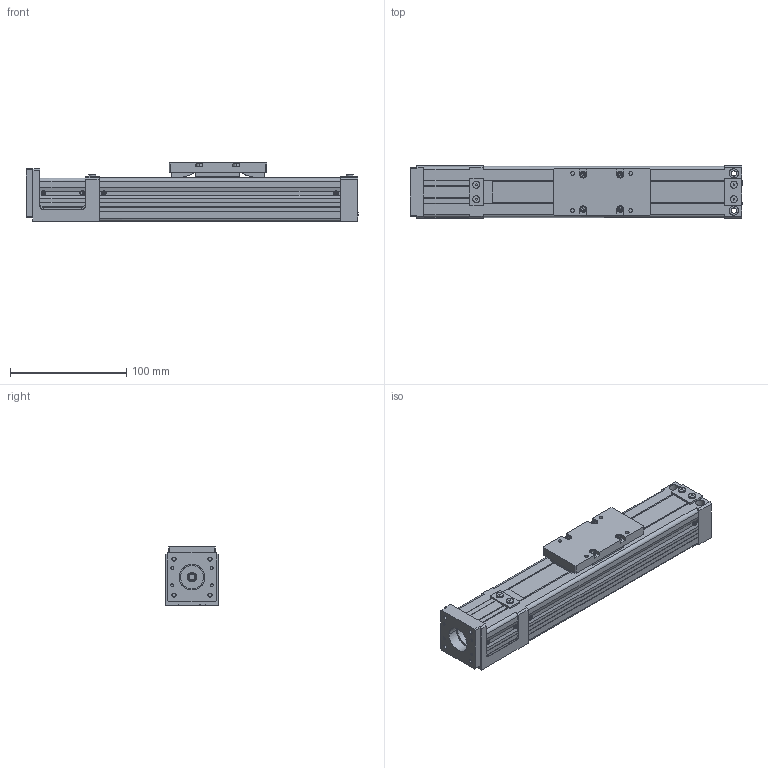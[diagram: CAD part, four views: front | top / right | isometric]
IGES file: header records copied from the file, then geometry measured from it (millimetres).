
Global section: file name: No Iges File Name specified; native system: AutoDesk Inventor R10; preprocessor: AutoDesk Inventor Iges Exporter R10; author: No Author specified; organization: No Organization specified; date: 20110330.140510; units: millimetre
Bounding box: 286 x 45 x 50 mm (x, y, z)
Surface area: 122707.1 mm2 (no closed solid volume)
Topology: 0 solids, 0 shells, 800 faces, 5270 edges, 5250 vertices
Faces by surface type: bspline 800
